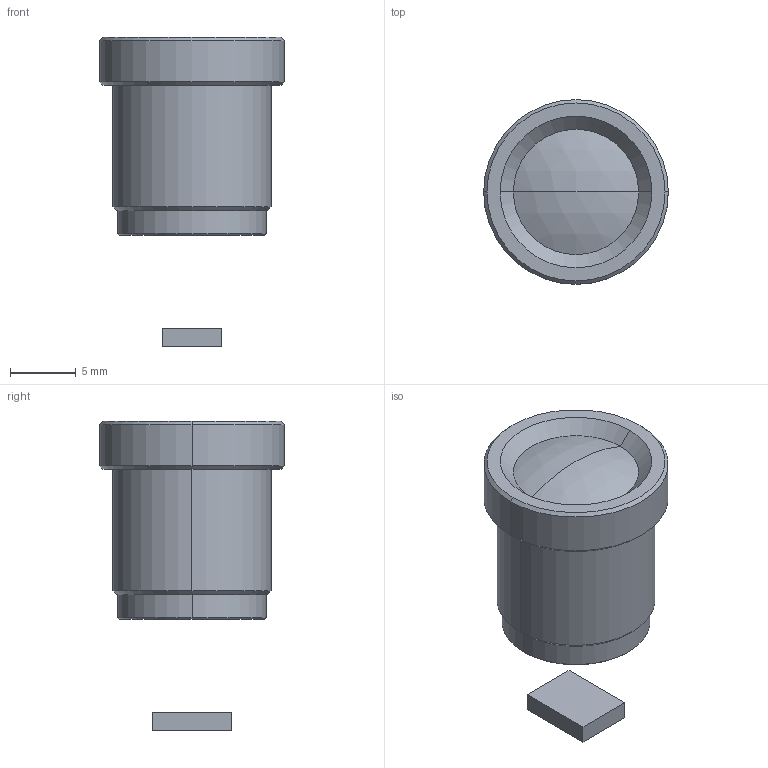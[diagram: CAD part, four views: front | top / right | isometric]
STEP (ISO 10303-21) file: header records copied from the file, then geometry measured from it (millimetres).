
FILE_DESCRIPTION (( 'STEP AP214' ), '1' );
FILE_NAME ('PT-3621.STEP', '2019-12-26T21:57:08', ( '' ), ( '' ), 'SwSTEP 2.0', 'SolidWorks 2018', '' );
FILE_SCHEMA (( 'AUTOMOTIVE_DESIGN' ));
Length unit declared in the file: millimetre
Products named in the file (1): PT-3621
Bounding box: 14 x 14 x 23.45 mm (x, y, z)
Volume: 1789.1 mm3; surface area: 976.8 mm2
Topology: 2 solids, 2 shells, 33 faces, 64 edges, 39 vertices
Faces by surface type: cone 12, plane 11, cylinder 8, sphere 2
Entity records: 929 total; most frequent: DIRECTION 164, CARTESIAN_POINT 137, ORIENTED_EDGE 128, AXIS2_PLACEMENT_3D 66, EDGE_CURVE 64, VERTEX_POINT 39, EDGE_LOOP 37, ADVANCED_FACE 33
